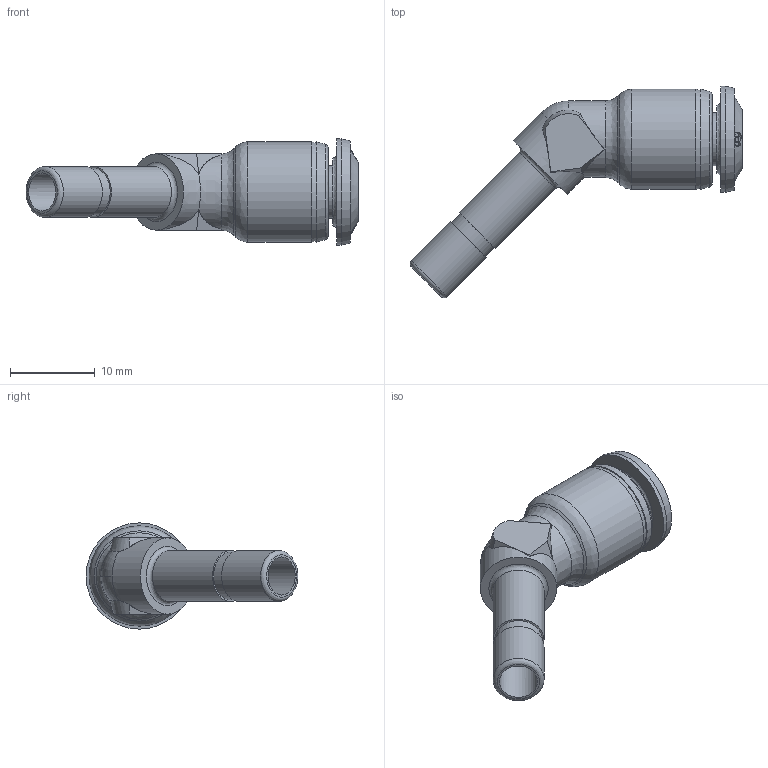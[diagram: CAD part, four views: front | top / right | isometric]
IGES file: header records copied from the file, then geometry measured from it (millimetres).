
Start section: SolidWorks IGES file using analytic representation for surfaces
Global section: file name: K:\Disegni Esecutivi\SERIE 55000\ASSIEMI_55000\55160\55160_igs\5516000005A.IGS; native system: SolidWorks 2012; preprocessor: SolidWorks 2012; author: cad05; date: 131014.172415; units: millimetre
Bounding box: 39.07 x 24.92 x 12.5 mm (x, y, z)
Surface area: 1894.8 mm2 (no closed solid volume)
Topology: 0 solids, 0 shells, 101 faces, 510 edges, 481 vertices
Faces by surface type: bspline 66, revolution 35
